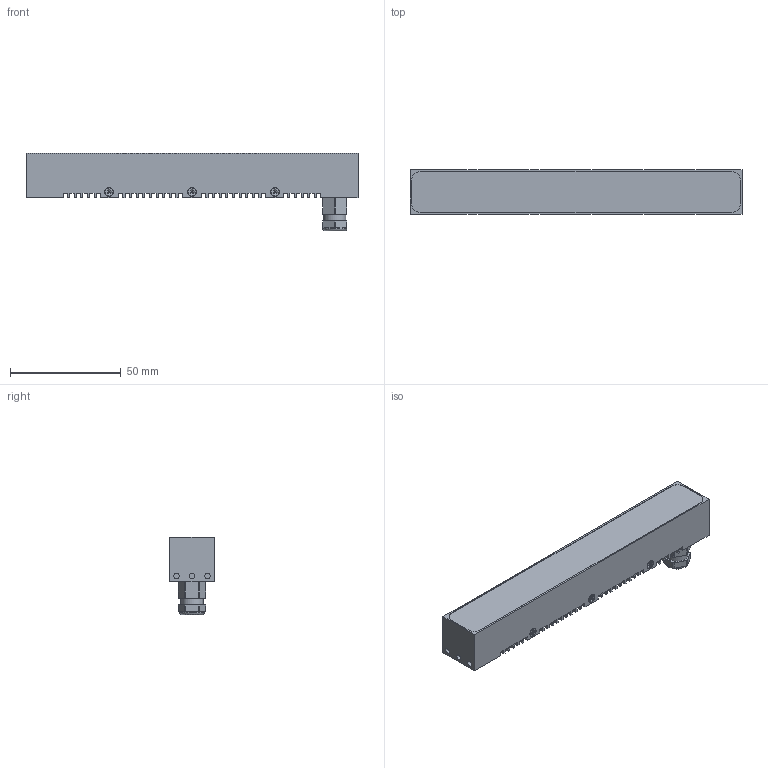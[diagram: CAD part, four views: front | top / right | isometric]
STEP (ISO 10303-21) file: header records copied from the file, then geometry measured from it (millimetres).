
FILE_DESCRIPTION( ( '' ), '1' );
FILE_NAME( 'L:/01_Produktserie LUMIMAX/LSB-Serie/LSB150/03_Konstruktion/LSB150 Download Katalog/LSB150.stp', '%{Zugriffsdatum}', ( 'Christian Koch' ), ( 'iiM AG' ), 'PSStep 13.0', 'Solid Edge', ' ' );
FILE_SCHEMA( ( 'AUTOMOTIVE_DESIGN { 1 0 10303 214 1 1 1 1 }' ) );
Length unit declared in the file: millimetre
Products named in the file (1): 1
Bounding box: 150 x 20 x 35 mm (x, y, z)
Volume: 57625 mm3; surface area: 16953.4 mm2
Topology: 1 solids, 15 shells, 511 faces, 1352 edges, 892 vertices
Faces by surface type: plane 343, cylinder 129, cone 26, torus 7, bspline 6
Full cylindrical faces by diameter (mm): 1.454 x6, 1.567 x14, 2 x6, 2.2 x6, 2.459 x6, 5.5 x1, 10 x1, 11 x1
Entity records: 19224 total; most frequent: CARTESIAN_POINT 2908, DIRECTION 2468, ORIENTED_EDGE 2452, EDGE_CURVE 1226, LINE 892, VECTOR 892, VERTEX_POINT 860, AXIS2_PLACEMENT_3D 788
